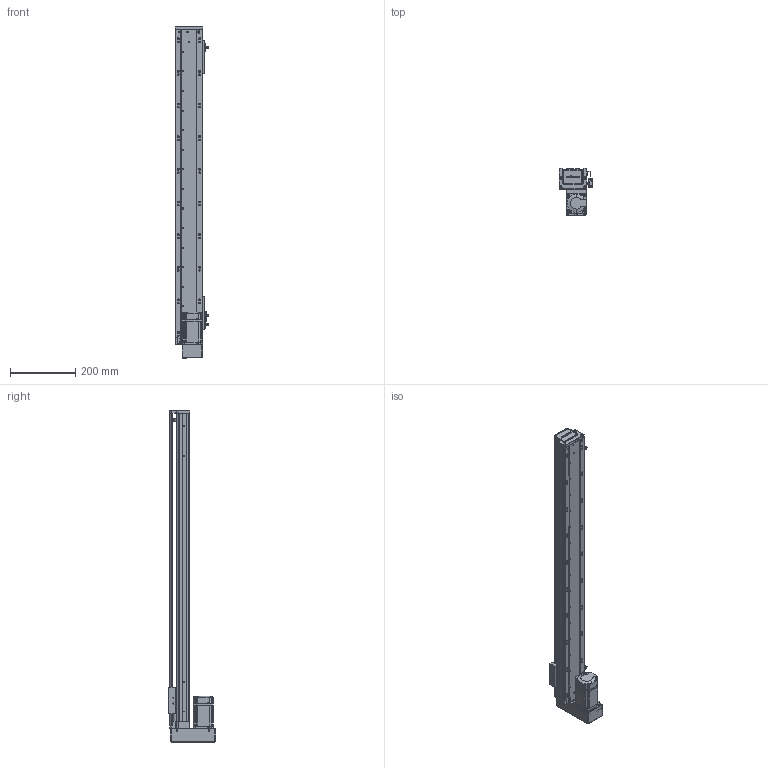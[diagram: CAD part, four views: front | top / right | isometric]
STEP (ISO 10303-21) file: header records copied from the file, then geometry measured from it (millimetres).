
FILE_DESCRIPTION (( 'STEP AP203' ), '1' );
FILE_NAME ('RY80-L1620-300-BK.SLDASM_800.step', '2021-02-20T07:11:06', ( '盈信电脑' ), ( '东莞市道滘镇水果街19号' ), 'SwSTEP 2.0', 'SolidWorks 2012', '' );
FILE_SCHEMA (( 'CONFIG_CONTROL_DESIGN' ));
Products named in the file (15): RY80狟殏俋欶; 滅袉蝶18-24; RY80-L1620-300-BK.SLDASM_800; RY80狟殏萇儂假蚾啣; 侂狟200W萇儂; RY80转接电机端支撑座; 1; RY80俋离覜茼え; T倰羞; 覜茼ん672; RY80-300蛌諉倰第奻裔啣-BK_800; RY80臏賑輸; RY80綴裔啣; 滅袉蝶18-10; RY80-300蛌諉倰第菁釱-BK_800
Assembly tree (17 placements, depth 3):
  RY80-L1620-300-BK.SLDASM_800
    RY80-300蛌諉倰第菁釱-BK_800
    RY80臏賑輸
    RY80-300蛌諉倰第奻裔啣-BK_800
    RY80綴裔啣
    滅袉蝶18-10
    T倰羞  x2
    覜茼ん672  x3
    RY80俋离覜茼え
    RY80转接电机端支撑座
    侂狟200W萇儂
      1
    RY80狟殏萇儂假蚾啣
    RY80狟殏俋欶
    滅袉蝶18-24
Bounding box: 103.7 x 144 x 1017 mm (x, y, z)
Volume: 1869552.6 mm3; surface area: 749686.1 mm2
Topology: 16 solids, 16 shells, 2289 faces, 6357 edges, 4123 vertices
Faces by surface type: plane 1196, cylinder 893, cone 138, bspline 62
Entity records: 74531 total; most frequent: CARTESIAN_POINT 20028, ORIENTED_EDGE 11410, DIRECTION 10430, EDGE_CURVE 5705, VERTEX_POINT 3739, AXIS2_PLACEMENT_3D 3523, LINE 3384, VECTOR 3384
